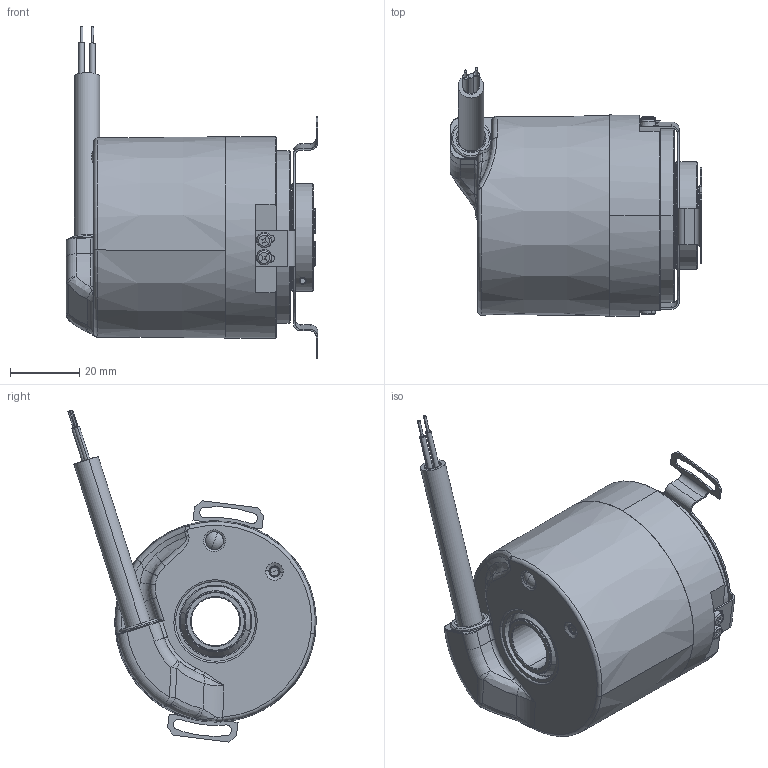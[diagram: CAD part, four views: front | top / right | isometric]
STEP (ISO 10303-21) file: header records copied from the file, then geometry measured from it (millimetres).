
FILE_DESCRIPTION (( 'STEP AP203' ), '1' );
FILE_NAME ('8.F5883.55X.E.XXXX.STEP', '2013-05-15T06:22:03', ( 'LauferA' ), ( 'Microsoft' ), 'SwSTEP 2.0', 'SolidWorks 2012', '' );
FILE_SCHEMA (( 'CONFIG_CONTROL_DESIGN' ));
Length unit declared in the file: millimetre
Products named in the file (1): 8.F5883.55X.E.XXXX
Bounding box: 72.47 x 71.55 x 95.6 mm (x, y, z)
Volume: 71740.7 mm3; surface area: 54992.7 mm2
Topology: 18 solids, 19 shells, 1842 faces, 4429 edges, 2647 vertices
Faces by surface type: cylinder 603, plane 436, bspline 361, cone 198, torus 186, sphere 58
Entity records: 65237 total; most frequent: CARTESIAN_POINT 25445, ORIENTED_EDGE 8618, DIRECTION 7976, EDGE_CURVE 4309, AXIS2_PLACEMENT_3D 3279, VERTEX_POINT 2611, EDGE_LOOP 2024, FACE_OUTER_BOUND 1842
